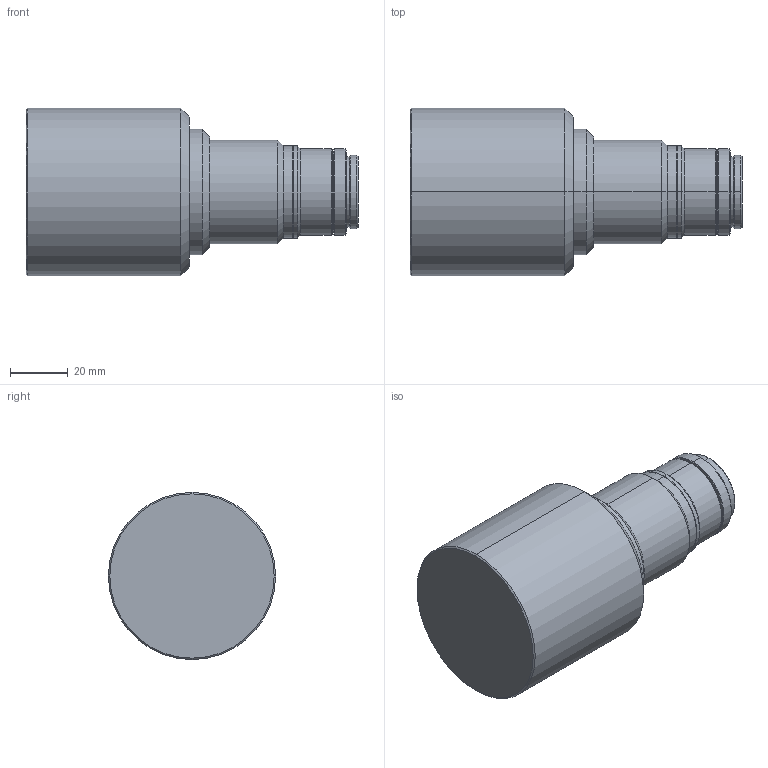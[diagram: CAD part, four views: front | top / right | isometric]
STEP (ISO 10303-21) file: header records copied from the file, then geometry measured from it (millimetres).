
FILE_DESCRIPTION (( 'STEP AP203' ), '1' );
FILE_NAME ('VS-TCM022-110-1_1.8.STEP', '2019-07-18T00:29:24', ( '' ), ( '' ), 'SwSTEP 2.0', 'SolidWorks 2018', '' );
FILE_SCHEMA (( 'CONFIG_CONTROL_DESIGN' ));
Length unit declared in the file: millimetre
Products named in the file (1): VS-TCM022-110-1_1.8
Bounding box: 115.2 x 58 x 58 mm (x, y, z)
Volume: 202717.2 mm3; surface area: 21260.8 mm2
Topology: 1 solids, 1 shells, 53 faces, 104 edges, 58 vertices
Faces by surface type: cone 26, cylinder 20, plane 7
Entity records: 1421 total; most frequent: DIRECTION 270, CARTESIAN_POINT 216, ORIENTED_EDGE 208, AXIS2_PLACEMENT_3D 112, EDGE_CURVE 104, VERTEX_POINT 58, CIRCLE 58, EDGE_LOOP 58
